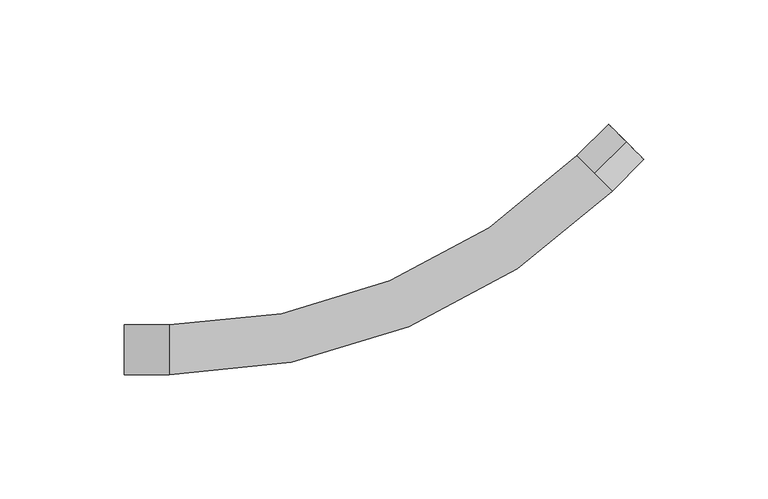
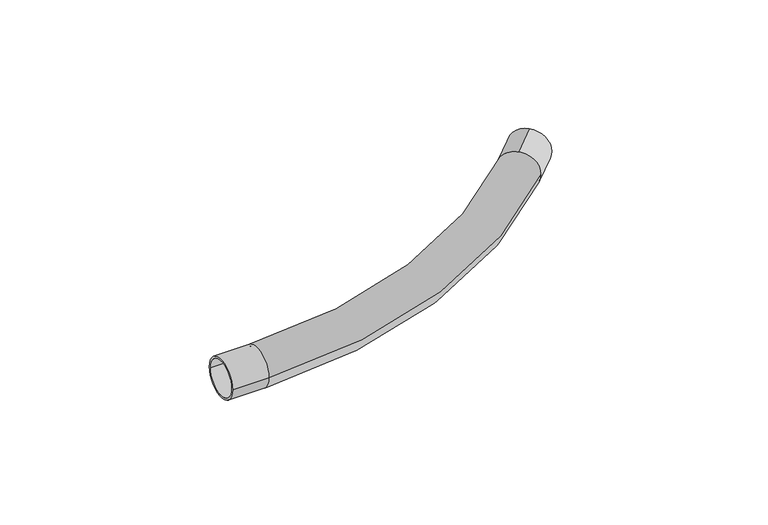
"""IFC4 building model written with IfcOpenShell, lengths in millimetres: cable carrier fitting geometry, КНС_МуфтаГибкаяТрубаТруба_IP64_DKC : Коробка."""

from ifc_helpers import new_model, si_unit, point, frame, origin, place, context, project, spatial, polyline, circle_curve, ellipse_curve, trimmed, source, transform, mapped, element, save
from ifc_brep_helpers import plane_surface, cylinder_surface, revolved_surface, advanced_brep


def cable_carrier_fitting_fd8eeae3(model_context):
    return source(origin(), model_context, "Body", "AdvancedBrep", [
        advanced_brep(
        [(-118.2046866, -10.0, 0.0), (-118.2046866, 10.0, 0.0), (-118.2046866, -9.0, 0.0), (-118.2046866, 9.0, 0.0), (-100.2046866, -10.0, 0.0), (-100.2046866, 10.0, 0.0), (-100.2046866, -9.0, 0.0), (-100.2046866, 9.0, 0.0), (70.8554134, 70.8554134, 9.0), (70.8554134, 70.8554134, -9.0), (77.9264812, 63.7843456, 0.0), (70.8554134, 70.8554134, 10.0), (63.7843456, 77.9264812, 0.0), (70.8554134, 70.8554134, -10.0), (83.5833355, 83.5833355, -10.0), (83.5833355, 83.5833355, 10.0), (83.5833355, 83.5833355, -9.0), (83.5833355, 83.5833355, 9.0)],
        [
            (0, 1, circle_curve(frame((-118.2046866, 0.0, 0.0), z_axis=(-1.0, 0.0, 0.0), x_axis=(0.0, 1.0, 0.0)), 10.0)),
            (1, 0, circle_curve(frame((-118.2046866, 0.0, 0.0), z_axis=(-1.0, 0.0, 0.0), x_axis=(0.0, 1.0, 0.0)), 10.0)),
            (2, 3, circle_curve(frame((-118.2046866, 0.0, 0.0), z_axis=(1.0, 0.0, 0.0), x_axis=(0.0, 1.0, 0.0)), 9.0)),
            (3, 2, circle_curve(frame((-118.2046866, 0.0, 0.0), z_axis=(1.0, 0.0, 0.0), x_axis=(0.0, 1.0, 0.0)), 9.0)),
            (0, 4),
            (4, 5, circle_curve(frame((-100.2046866, 0.0, 0.0), z_axis=(-1.0, 0.0, 0.0), x_axis=(0.0, 1.0, 0.0)), 10.0)),
            (5, 1),
            (5, 4, circle_curve(frame((-100.2046866, 0.0, 0.0), z_axis=(-1.0, 0.0, 0.0), x_axis=(0.0, 1.0, 0.0)), 10.0)),
            (2, 6),
            (6, 7, circle_curve(frame((-100.2046866, 0.0, 0.0), z_axis=(1.0, 0.0, 0.0), x_axis=(0.0, 1.0, 0.0)), 9.0)),
            (7, 3),
            (7, 6, circle_curve(frame((-100.2046866, 0.0, 0.0), z_axis=(1.0, 0.0, 0.0), x_axis=(0.0, 1.0, 0.0)), 9.0)),
            (8, 9, circle_curve(frame((70.8554134, 70.8554134, 0.0), z_axis=(0.7071067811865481, 0.707106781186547, 0.0), x_axis=(0.0, 0.0, 1.0)), 9.0)),
            (9, 8, circle_curve(frame((70.8554134, 70.8554134, 0.0), z_axis=(0.7071067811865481, 0.707106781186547, 0.0), x_axis=(0.0, 0.0, 1.0)), 9.0)),
            (4, 10, circle_curve(frame((-100.2046866, 241.9155135, 0.0), z_axis=(0.0, 0.0, 1.0), x_axis=(0.7071067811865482, -0.7071067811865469, 0.0)), 251.9155135)),
            (10, 11, circle_curve(frame((70.8554134, 70.8554134, 0.0), z_axis=(-0.7071067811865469, -0.7071067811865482, 0.0), x_axis=(0.7071067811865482, -0.7071067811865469, 0.0)), 10.0)),
            (11, 12, circle_curve(frame((70.8554134, 70.8554134, 0.0), z_axis=(-0.7071067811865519, -0.7071067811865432, 0.0), x_axis=(0.7071067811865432, -0.7071067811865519, 0.0)), 10.0)),
            (12, 5, circle_curve(frame((-100.2046866, 241.9155135, 0.0), z_axis=(0.0, 0.0, -1.0), x_axis=(0.7071067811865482, -0.7071067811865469, 0.0)), 231.9155135)),
            (12, 13, circle_curve(frame((70.8554134, 70.8554134, 0.0), z_axis=(-0.7071067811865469, -0.7071067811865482, 0.0), x_axis=(0.7071067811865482, -0.7071067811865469, 0.0)), 10.0)),
            (13, 10, circle_curve(frame((70.8554134, 70.8554134, 0.0), z_axis=(-0.7071067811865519, -0.7071067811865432, 0.0), x_axis=(0.7071067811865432, -0.7071067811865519, 0.0)), 10.0)),
            (14, 15, circle_curve(frame((83.5833355, 83.5833355, 0.0), z_axis=(0.7071067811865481, 0.707106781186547, 0.0), x_axis=(0.0, 0.0, 1.0)), 10.0)),
            (15, 14, circle_curve(frame((83.5833355, 83.5833355, 0.0), z_axis=(0.7071067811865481, 0.707106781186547, 0.0), x_axis=(0.0, 0.0, 1.0)), 10.0)),
            (16, 17, circle_curve(frame((83.5833355, 83.5833355, 0.0), z_axis=(-0.7071067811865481, -0.707106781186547, 0.0), x_axis=(0.0, 0.0, 1.0)), 9.0)),
            (17, 16, circle_curve(frame((83.5833355, 83.5833355, 0.0), z_axis=(-0.7071067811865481, -0.707106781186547, 0.0), x_axis=(0.0, 0.0, 1.0)), 9.0)),
            (14, 13),
            (11, 15),
            (16, 9),
            (8, 17),
        ],
        [
            plane_surface(frame((-118.2046866, 0.0, 0.0), z_axis=(-1.0, 0.0, 0.0), x_axis=(0.0, 0.0, 1.0))),
            cylinder_surface(frame((-118.2046866, 0.0, 0.0), z_axis=(-1.0, 0.0, 0.0), x_axis=(0.0, 1.0, 0.0)), 10.0),
            revolved_surface(polyline([(-100.2046866, 9.0, 0.0), (-118.2046866, 9.0, 0.0)]), (-118.2046866, 0.0, 0.0), (1.0, 0.0, 0.0)),
            plane_surface(frame((70.8554134, 70.8554134, 0.0), z_axis=(0.7071067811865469, 0.7071067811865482, 0.0), x_axis=(0.0, 0.0, 1.0))),
            plane_surface(frame((-100.2046866, 0.0, 0.0), z_axis=(-1.0, 0.0, 0.0), x_axis=(0.0, 0.0, 1.0))),
            revolved_surface(trimmed(ellipse_curve(frame((70.8554134, 70.8554134, 0.0), z_axis=(0.7071067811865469, 0.7071067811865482, 0.0), x_axis=(0.7071067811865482, -0.7071067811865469, 0.0)), 10.0, 10.0), [point((63.7843456, 77.9264812, 0.0))], [point((77.9264812, 63.7843456, 0.0))], True, "CARTESIAN"), (-100.2046866, 241.9155135, 0.0), (0.0, 0.0, -1.0)),
            revolved_surface(trimmed(ellipse_curve(frame((70.8554134, 70.8554134, 0.0), z_axis=(0.7071067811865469, 0.7071067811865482, 0.0), x_axis=(0.7071067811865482, -0.7071067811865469, 0.0)), 10.0, 10.0), [point((77.9264812, 63.7843456, 0.0))], [point((63.7843456, 77.9264812, 0.0))], True, "CARTESIAN"), (-100.2046866, 241.9155135, 0.0), (0.0, 0.0, -1.0)),
            plane_surface(frame((83.5833355, 83.5833355, 10.0), z_axis=(0.707106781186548, 0.7071067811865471, 0.0), x_axis=(0.7071067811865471, -0.707106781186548, 0.0))),
            cylinder_surface(frame((70.8554134, 70.8554134, 0.0), z_axis=(0.7071067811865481, 0.707106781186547, 0.0), x_axis=(0.0, 0.0, 1.0)), 10.0),
            revolved_surface(polyline([(70.8554134, 70.8554134, 9.0), (83.58333550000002, 83.58333549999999, 9.0)]), (70.8554134, 70.8554134, 0.0), (-0.7071067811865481, -0.707106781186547, 0.0)),
        ],
        [
            (0, [[1, 2], [3, 4]]),
            (1, [[-1, 5, 6, 7]]),
            (1, [[-2, -7, 8, -5]]),
            (2, [[-3, 9, 10, 11]]),
            (2, [[-4, -11, 12, -9]]),
            (3, [[13, 14]]),
            (4, [[-10, -12]]),
            (5, [[15, 16, 17, 18, -6]]),
            (6, [[-15, -8, -18, 19, 20]]),
            (7, [[21, 22], [23, 24]]),
            (8, [[-21, 25, -19, -17, 26]]),
            (8, [[-22, -26, -16, -20, -25]]),
            (9, [[-23, 27, -13, 28]]),
            (9, [[-24, -28, -14, -27]]),
        ],
    ),
    ])


if __name__ == "__main__":
    model = new_model("IFC4")
    model_context = context("Model", 3, world=origin())
    ifc_project = project(units=[si_unit("LENGTHUNIT", "METRE", prefix="MILLI")], contexts=[model_context])
    site = spatial("IfcSite", under=ifc_project)
    building = spatial("IfcBuilding", under=site)
    placement = place(None, origin())
    cable_carrier_fitting_shape = cable_carrier_fitting_fd8eeae3(model_context)
    element("IfcCableCarrierFitting", 1, ObjectType="КНС_МуфтаГибкаяТрубаТруба_IP64_DKC : Коробка", at=placement, inside=building, context=model_context, shape_type="MappedRepresentation", body=[
        mapped(cable_carrier_fitting_shape, transform((0.0, 0.0, 0.0), x_axis=(1.0, 0.0, 0.0), y_axis=(0.0, 1.0, 0.0), z_axis=(0.0, 0.0, 1.0))),
    ])
    save(model, "model.ifc")
